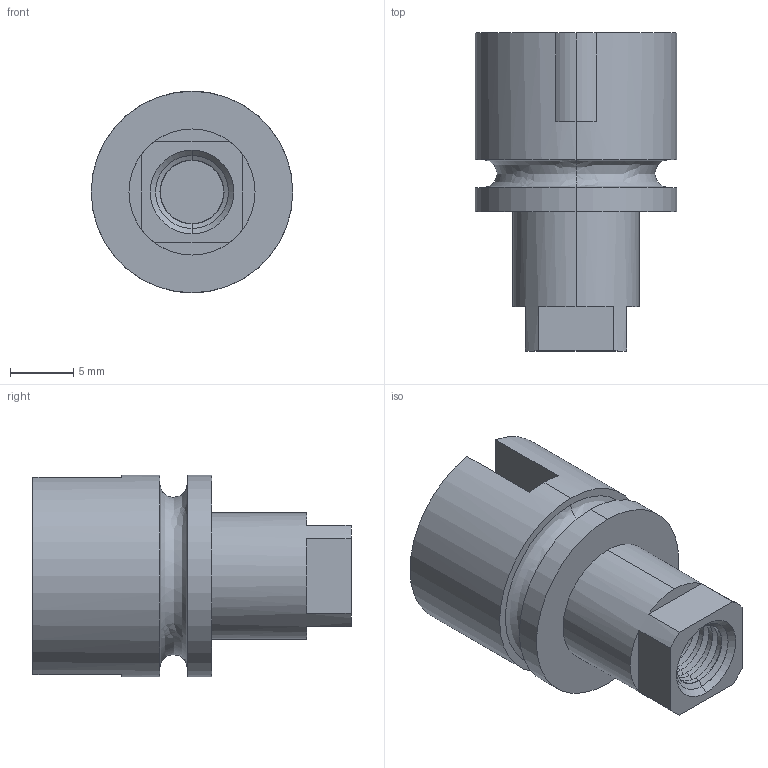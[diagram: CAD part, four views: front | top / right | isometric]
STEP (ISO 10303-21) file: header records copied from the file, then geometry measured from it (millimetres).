
FILE_DESCRIPTION (( 'STEP AP214' ), '1' );
FILE_NAME ('LI505_V1.STEP', '2016-06-03T12:43:36', ( '' ), ( '' ), 'SwSTEP 2.0', 'SolidWorks 2014', '' );
FILE_SCHEMA (( 'AUTOMOTIVE_DESIGN' ));
Length unit declared in the file: millimetre
Products named in the file (2): LI505_V1
Bounding box: 15.9 x 25.1 x 15.9 mm (x, y, z)
Volume: 2680.4 mm3; surface area: 2150.8 mm2
Topology: 1 solids, 1 shells, 103 faces, 228 edges, 132 vertices
Faces by surface type: cone 48, cylinder 32, plane 21, bspline 2
Entity records: 3061 total; most frequent: CARTESIAN_POINT 679, DIRECTION 544, ORIENTED_EDGE 456, EDGE_CURVE 228, AXIS2_PLACEMENT_3D 217, VERTEX_POINT 132, CIRCLE 114, VECTOR 110
